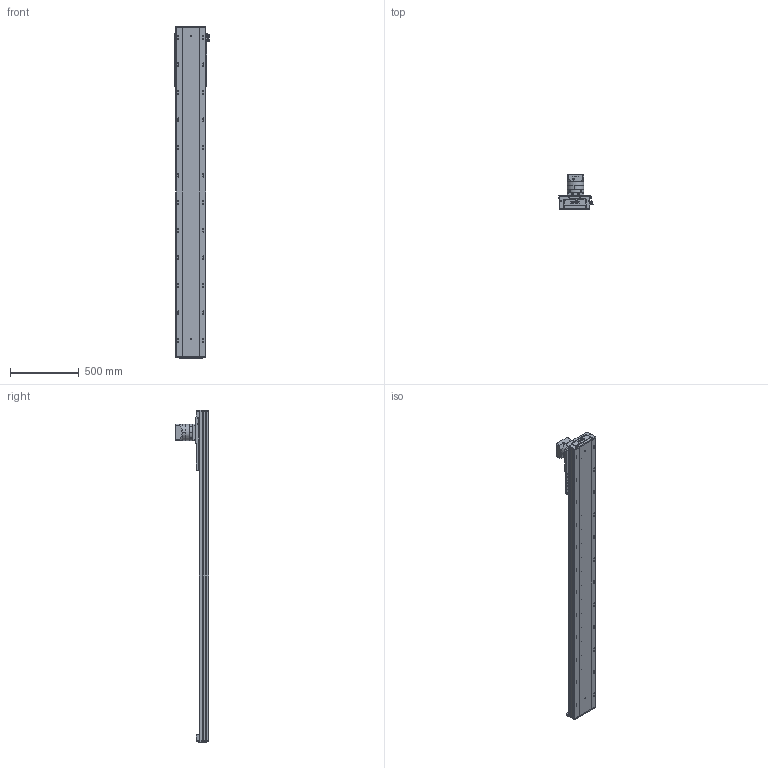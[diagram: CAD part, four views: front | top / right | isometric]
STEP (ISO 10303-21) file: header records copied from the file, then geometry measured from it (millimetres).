
FILE_DESCRIPTION (( 'STEP AP203' ), '1' );
FILE_NAME ('RY220-C-300-UK.SLDASM_1900.step', '2022-08-01T05:59:43', ( '' ), ( '' ), 'SwSTEP 2.0', 'SolidWorks 2016', '' );
FILE_SCHEMA (( 'CONFIG_CONTROL_DESIGN' ));
Length unit declared in the file: millimetre
Products named in the file (10): RY220喘沭俋离覜茼え; RY140直线电机感应器674光电安装座; RY220喘沭綴裔啣; RY220喘沭賑輸; RY220-C-300-UK.SLDASM_1900; PF115L1-S2-22-58-110-145-M8; RY220-齿条模组电机安装板; 滅袉蝶輸ㄗG412隅秶ㄘ; 覜茼ん674; RY220菁釱MK-300_1900
Assembly tree (12 placements, depth 2):
  RY220-C-300-UK.SLDASM_1900
    RY220菁釱MK-300_1900
    RY220喘沭賑輸
    RY220-齿条模组电机安装板
    PF115L1-S2-22-58-110-145-M8
    RY220喘沭綴裔啣  x2
    滅袉蝶輸ㄗG412隅秶ㄘ  x2
    RY140直线电机感应器674光电安装座
    覜茼ん674  x2
    RY220喘沭俋离覜茼え
Bounding box: 247 x 244.5 x 2409 mm (x, y, z)
Volume: 17240575.5 mm3; surface area: 3489131.1 mm2
Topology: 18 solids, 26 shells, 2174 faces, 5841 edges, 3677 vertices
Faces by surface type: cylinder 1027, plane 751, cone 234, bspline 162
Entity records: 68885 total; most frequent: CARTESIAN_POINT 18795, DIRECTION 10299, ORIENTED_EDGE 10114, EDGE_CURVE 5057, AXIS2_PLACEMENT_3D 3929, VERTEX_POINT 3303, EDGE_LOOP 2508, LINE 2441
